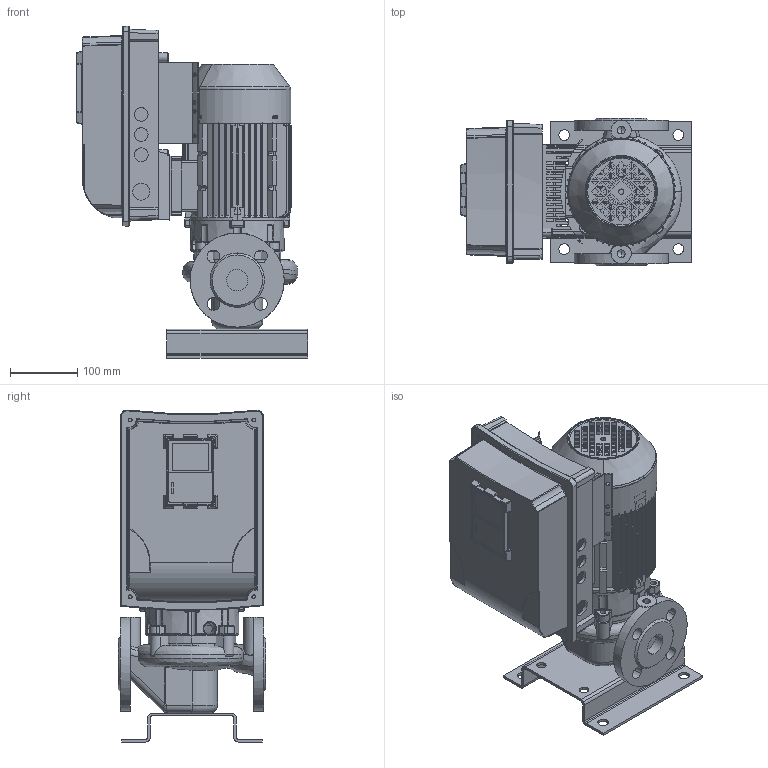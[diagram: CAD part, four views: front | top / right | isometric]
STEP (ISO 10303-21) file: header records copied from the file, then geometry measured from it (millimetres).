
FILE_DESCRIPTION(('STEP AP214'),'1');
FILE_NAME('export.stp','2018-06-04T07:43:36',(' '),(' '),'Spatial InterOp 3D',' ',' ');
FILE_SCHEMA(('AUTOMOTIVE_DESIGN { 1 0 10303 214 1 1 1 1 }'));
Length unit declared in the file: millimetre
Products named in the file (22): W_L32A2110_KPVS; V_TLL32AAP15AKP25; V_PPL32A; V_JALKA35973; MS2_Vac20_KP80N12; MS2_bottom_final; DIN_966-M4x10; Jäähdytyslevy_M; DIN_966-M5x16; MS2_cover_final; 2xRJ45_liitin; Piirilevyn_pala; liitin_RJ45; Vacon_Text_Displa; CAD-3D-VACON-M100-Display.sldasm; 160018; 160002_Valu; V_MKP801N12VS; 160039___; 160040___; 160133; P101416
Assembly tree (28 placements, depth 5):
  W_L32A2110_KPVS
    V_TLL32AAP15AKP25
    V_PPL32A
    V_JALKA35973
    MS2_Vac20_KP80N12
      MS2_bottom_final
      DIN_966-M4x10  x2
      Jäähdytyslevy_M
      DIN_966-M5x16  x6
      MS2_cover_final
      2xRJ45_liitin
        Piirilevyn_pala
        liitin_RJ45  x2
      Vacon_Text_Displa
        CAD-3D-VACON-M100-Display.sldasm
      V_MKP801N12VS
        160018
          160002_Valu
        160039___
        160040___
        160133
      P101416
Bounding box: 344.81 x 220 x 494.5 mm (x, y, z)
Volume: 4251938.8 mm3; surface area: 1590674.7 mm2
Topology: 22 solids, 1495 shells, 5478 faces, 18202 edges, 14196 vertices
Faces by surface type: bspline 1997, plane 1364, cylinder 1270, torus 465, cone 272, sphere 110
Entity records: 261693 total; most frequent: CARTESIAN_POINT 116607, ORIENTED_EDGE 27548, DIRECTION 18339, EDGE_CURVE 17596, VERTEX_POINT 13914, B_SPLINE_CURVE_WITH_KNOTS 8188, AXIS2_PLACEMENT_3D 7093, EDGE_LOOP 5772
